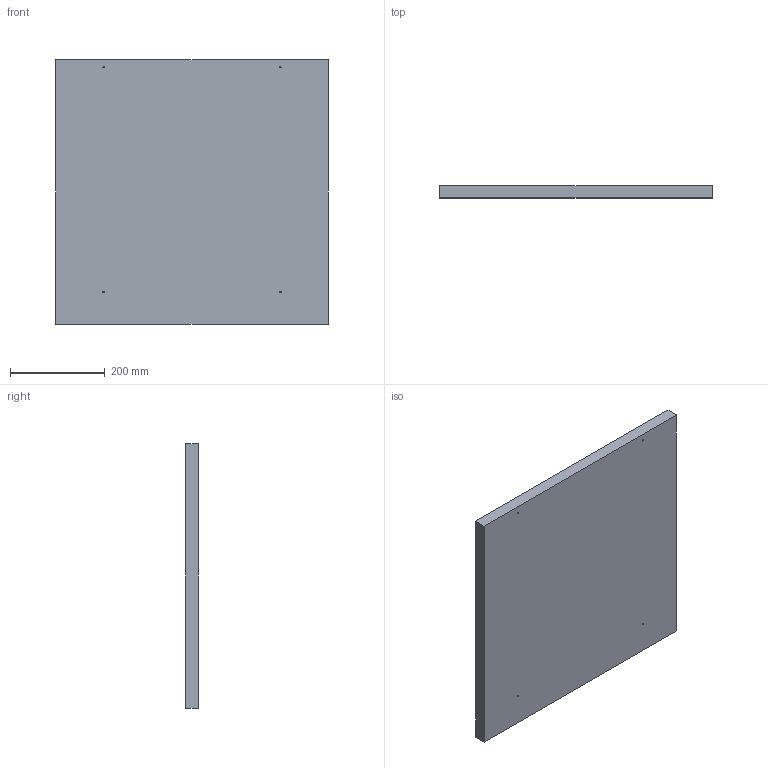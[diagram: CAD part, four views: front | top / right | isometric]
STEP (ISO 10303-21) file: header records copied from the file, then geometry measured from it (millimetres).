
FILE_DESCRIPTION((''),'2;1');
FILE_NAME('C5_1BAY_22D_TOP','2021-06-04T',('rpiatt1a'),('Middle Atlantic Products'),'CREO PARAMETRIC BY PTC INC, 2018360','CREO PARAMETRIC BY PTC INC, 2018360','');
FILE_SCHEMA(('CONFIG_CONTROL_DESIGN'));
Length unit declared in the file: inch
Products named in the file (1): C5_1BAY_22D_TOP
Bounding box: 573.43 x 25.4 x 557.23 mm (x, y, z)
Volume: 8115836.5 mm3; surface area: 696793.6 mm2
Topology: 1 solids, 1 shells, 18 faces, 36 edges, 24 vertices
Faces by surface type: plane 10, cylinder 8
Entity records: 516 total; most frequent: DIRECTION 88, CARTESIAN_POINT 78, ORIENTED_EDGE 72, EDGE_CURVE 36, AXIS2_PLACEMENT_3D 34, VERTEX_POINT 24, EDGE_LOOP 22, VECTOR 20
